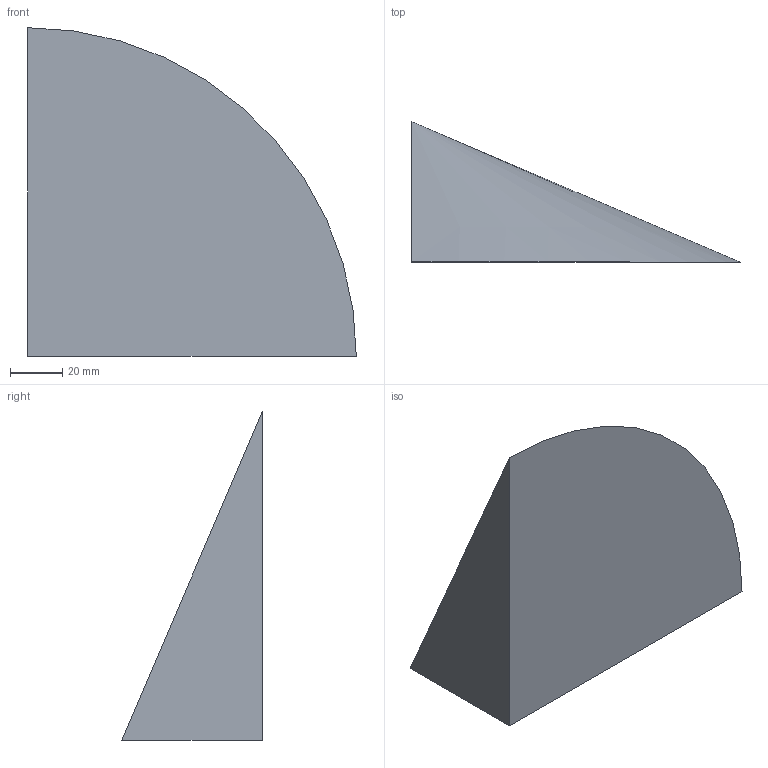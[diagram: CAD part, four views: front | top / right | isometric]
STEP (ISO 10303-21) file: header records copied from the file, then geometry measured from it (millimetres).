
FILE_DESCRIPTION(('CATIA V5 STEP Exchange'),'2;1');
FILE_NAME('C:\_Andres\UNIVERSIDAD\IQS\ASIGNATURAS\DAO\EXF\EXF-16172c\2inicio\Rabat_Riba_Ej07_v26.stp','2017-03-05T21:18:14+00:00',('none'),('none'),'CATIA Version 5-6 Release 2014 SP1 HF18','CATIA V5 STEP AP203','none');
FILE_SCHEMA(('CONFIG_CONTROL_DESIGN'));
Length unit declared in the file: millimetre
Products named in the file (1): Rabat_Riba_Ej07_v26
Bounding box: 126 x 54 x 126 mm (x, y, z)
Volume: 224441.7 mm3; surface area: 32838.8 mm2
Topology: 1 solids, 1 shells, 4 faces, 7 edges, 4 vertices
Faces by surface type: plane 3, cone 1
Entity records: 131 total; most frequent: CARTESIAN_POINT 15, DIRECTION 14, ORIENTED_EDGE 12, AXIS2_PLACEMENT_3D 6, EDGE_CURVE 6, VECTOR 5, LINE 5, ADVANCED_FACE 4
